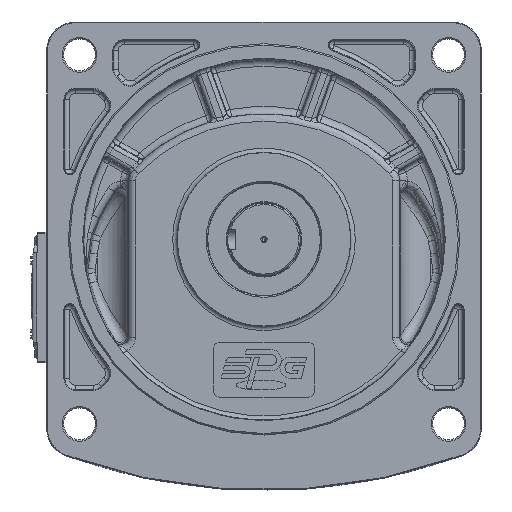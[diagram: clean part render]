
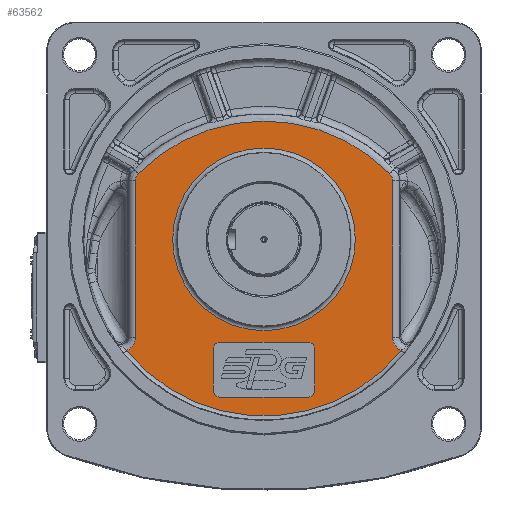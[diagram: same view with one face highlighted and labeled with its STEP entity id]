
A CAD part, front view. The second image highlights one B-rep face of the part: STEP entity #63562.
In plain terms, the highlighted planar face has unit normal (0, -1, 0).
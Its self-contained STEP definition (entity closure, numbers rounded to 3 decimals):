
#704=FACE_BOUND('',#15007,.T.);
#705=FACE_BOUND('',#15008,.T.);
#1747=PLANE('',#69085);
#4005=LINE('',#99045,#7163);
#4009=LINE('',#99057,#7167);
#4013=LINE('',#99069,#7171);
#4110=LINE('',#99345,#7268);
#4203=LINE('',#102868,#7361);
#4204=LINE('',#102870,#7362);
#7163=VECTOR('',#79846,10.);
#7167=VECTOR('',#79858,10.);
#7171=VECTOR('',#79870,10.);
#7268=VECTOR('',#80117,10.);
#7361=VECTOR('',#80888,10.);
#7362=VECTOR('',#80889,10.);
#10999=FACE_OUTER_BOUND('',#15006,.T.);
#15006=EDGE_LOOP('',(#46272,#46273,#46274,#46275,#46276,#46277,#46278,#46279));
#15007=EDGE_LOOP('',(#46280,#46281,#46282,#46283,#46284,#46285,#46286,#46287));
#15008=EDGE_LOOP('',(#46288));
#18998=CIRCLE('',#68663,5.);
#19000=CIRCLE('',#68667,5.);
#19002=CIRCLE('',#68671,5.);
#19004=CIRCLE('',#68675,5.);
#19146=CIRCLE('',#68951,121.601);
#19232=CIRCLE('',#69084,63.);
#19233=CIRCLE('',#69086,121.858);
#21675=B_SPLINE_CURVE_WITH_KNOTS('',3,(#100813,#100814,#100815,#100816,
#100817),.UNSPECIFIED.,.F.,.F.,(4,1,4),(0.,0.309,0.541),
 .UNSPECIFIED.);
#21763=B_SPLINE_CURVE_WITH_KNOTS('',3,(#102698,#102699,#102700,#102701,
#102702),.UNSPECIFIED.,.F.,.F.,(4,1,4),(0.,0.232,0.541),
 .UNSPECIFIED.);
#21776=B_SPLINE_CURVE_WITH_KNOTS('',3,(#102861,#102862,#102863,#102864,
#102865,#102866,#102867),.UNSPECIFIED.,.F.,.F.,(4,1,1,1,4),(0.,
0.361,0.722,1.084,1.153),
 .UNSPECIFIED.);
#21777=B_SPLINE_CURVE_WITH_KNOTS('',3,(#102871,#102872,#102873,#102874,
#102875,#102876),.UNSPECIFIED.,.F.,.F.,(4,1,1,4),(1.376,1.806,
2.167,2.528),.UNSPECIFIED.);
#25985=VERTEX_POINT('',#99035);
#25986=VERTEX_POINT('',#99037);
#25988=VERTEX_POINT('',#99043);
#25990=VERTEX_POINT('',#99049);
#25992=VERTEX_POINT('',#99055);
#25994=VERTEX_POINT('',#99061);
#25996=VERTEX_POINT('',#99067);
#25998=VERTEX_POINT('',#99073);
#26199=VERTEX_POINT('',#100810);
#26200=VERTEX_POINT('',#100812);
#26213=VERTEX_POINT('',#100877);
#26313=VERTEX_POINT('',#102696);
#26329=VERTEX_POINT('',#102853);
#26330=VERTEX_POINT('',#102857);
#26331=VERTEX_POINT('',#102858);
#26332=VERTEX_POINT('',#102860);
#26333=VERTEX_POINT('',#102869);
#32789=EDGE_CURVE('',#25985,#25986,#18998,.T.);
#32793=EDGE_CURVE('',#25985,#25988,#4005,.T.);
#32796=EDGE_CURVE('',#25990,#25988,#19000,.T.);
#32799=EDGE_CURVE('',#25990,#25992,#4009,.T.);
#32802=EDGE_CURVE('',#25994,#25992,#19002,.T.);
#32805=EDGE_CURVE('',#25994,#25996,#4013,.T.);
#32808=EDGE_CURVE('',#25998,#25996,#19004,.T.);
#32944=EDGE_CURVE('',#25998,#25986,#4110,.T.);
#33161=EDGE_CURVE('',#26199,#26200,#21675,.T.);
#33176=EDGE_CURVE('',#26213,#26199,#19146,.T.);
#33352=EDGE_CURVE('',#26313,#26213,#21763,.T.);
#33385=EDGE_CURVE('',#26329,#26329,#19232,.T.);
#33386=EDGE_CURVE('',#26330,#26331,#19233,.T.);
#33387=EDGE_CURVE('',#26332,#26330,#21776,.T.);
#33388=EDGE_CURVE('',#26200,#26332,#4203,.T.);
#33389=EDGE_CURVE('',#26333,#26313,#4204,.T.);
#33390=EDGE_CURVE('',#26331,#26333,#21777,.T.);
#46272=ORIENTED_EDGE('',*,*,#33386,.F.);
#46273=ORIENTED_EDGE('',*,*,#33387,.F.);
#46274=ORIENTED_EDGE('',*,*,#33388,.F.);
#46275=ORIENTED_EDGE('',*,*,#33161,.F.);
#46276=ORIENTED_EDGE('',*,*,#33176,.F.);
#46277=ORIENTED_EDGE('',*,*,#33352,.F.);
#46278=ORIENTED_EDGE('',*,*,#33389,.F.);
#46279=ORIENTED_EDGE('',*,*,#33390,.F.);
#46280=ORIENTED_EDGE('',*,*,#32805,.T.);
#46281=ORIENTED_EDGE('',*,*,#32808,.F.);
#46282=ORIENTED_EDGE('',*,*,#32944,.T.);
#46283=ORIENTED_EDGE('',*,*,#32789,.F.);
#46284=ORIENTED_EDGE('',*,*,#32793,.T.);
#46285=ORIENTED_EDGE('',*,*,#32796,.F.);
#46286=ORIENTED_EDGE('',*,*,#32799,.T.);
#46287=ORIENTED_EDGE('',*,*,#32802,.F.);
#46288=ORIENTED_EDGE('',*,*,#33385,.F.);
#63562=ADVANCED_FACE('',(#10999,#704,#705),#1747,.F.);
#68663=AXIS2_PLACEMENT_3D('',#99038,#79839,#79840);
#68667=AXIS2_PLACEMENT_3D('',#99051,#79852,#79853);
#68671=AXIS2_PLACEMENT_3D('',#99063,#79864,#79865);
#68675=AXIS2_PLACEMENT_3D('',#99075,#79876,#79877);
#68951=AXIS2_PLACEMENT_3D('',#100879,#80587,#80588);
#69084=AXIS2_PLACEMENT_3D('',#102855,#80882,#80883);
#69085=AXIS2_PLACEMENT_3D('',#102856,#80884,#80885);
#69086=AXIS2_PLACEMENT_3D('',#102859,#80886,#80887);
#79839=DIRECTION('center_axis',(0.,-1.,0.));
#79840=DIRECTION('ref_axis',(0.707,0.,0.707));
#79846=DIRECTION('',(0.,0.,-1.));
#79852=DIRECTION('center_axis',(0.,-1.,0.));
#79853=DIRECTION('ref_axis',(0.707,0.,-0.707));
#79858=DIRECTION('',(-1.,0.,0.));
#79864=DIRECTION('center_axis',(0.,-1.,0.));
#79865=DIRECTION('ref_axis',(-0.707,0.,-0.707));
#79870=DIRECTION('',(0.,0.,1.));
#79876=DIRECTION('center_axis',(0.,-1.,0.));
#79877=DIRECTION('ref_axis',(-0.707,0.,0.707));
#80117=DIRECTION('',(1.,0.,0.));
#80587=DIRECTION('center_axis',(0.,1.,0.));
#80588=DIRECTION('ref_axis',(0.,0.,
1.));
#80882=DIRECTION('center_axis',(0.,-1.,0.));
#80883=DIRECTION('ref_axis',(-1.,0.,0.));
#80884=DIRECTION('center_axis',(0.,1.,0.));
#80885=DIRECTION('ref_axis',(-1.,0.,0.));
#80886=DIRECTION('center_axis',(0.,1.,0.));
#80887=DIRECTION('ref_axis',(0.,0.,
-1.));
#80888=DIRECTION('',(0.,0.,-1.));
#80889=DIRECTION('',(0.,0.,1.));
#99035=CARTESIAN_POINT('',(-22.569,2.,62.589));
#99037=CARTESIAN_POINT('',(-27.569,2.,67.589));
#99038=CARTESIAN_POINT('Origin',(-27.569,2.,62.589));
#99043=CARTESIAN_POINT('',(-22.569,2.,34.589));
#99045=CARTESIAN_POINT('',(-22.569,2.,64.089));
#99049=CARTESIAN_POINT('',(-27.569,2.,29.589));
#99051=CARTESIAN_POINT('Origin',(-27.569,2.,34.589));
#99055=CARTESIAN_POINT('',(-87.569,2.,29.589));
#99057=CARTESIAN_POINT('',(-75.069,2.,29.589));
#99061=CARTESIAN_POINT('',(-92.569,2.,34.589));
#99063=CARTESIAN_POINT('Origin',(-87.569,2.,34.589));
#99067=CARTESIAN_POINT('',(-92.569,2.,62.589));
#99069=CARTESIAN_POINT('',(-92.569,2.,83.089));
#99073=CARTESIAN_POINT('',(-87.569,2.,67.589));
#99075=CARTESIAN_POINT('Origin',(-87.569,2.,62.589));
#99345=CARTESIAN_POINT('',(-40.069,2.,67.589));
#100810=CARTESIAN_POINT('',(29.097,2.,183.887));
#100812=CARTESIAN_POINT('',(31.107,2.,178.978));
#100813=CARTESIAN_POINT('Ctrl Pts',(29.097,2.,183.887));
#100814=CARTESIAN_POINT('Ctrl Pts',(29.819,2.,183.153));
#100815=CARTESIAN_POINT('Ctrl Pts',(30.804,2.,181.571));
#100816=CARTESIAN_POINT('Ctrl Pts',(31.107,2.,179.75));
#100817=CARTESIAN_POINT('Ctrl Pts',(31.107,2.,178.978));
#100877=CARTESIAN_POINT('',(-144.235,2.,183.887));
#100879=CARTESIAN_POINT('Origin',(-57.569,2.,98.589));
#102696=CARTESIAN_POINT('',(-146.246,2.,178.978));
#102698=CARTESIAN_POINT('Ctrl Pts',(-146.246,2.,
178.978));
#102699=CARTESIAN_POINT('Ctrl Pts',(-146.246,2.,
179.75));
#102700=CARTESIAN_POINT('Ctrl Pts',(-145.943,2.,
181.571));
#102701=CARTESIAN_POINT('Ctrl Pts',(-144.958,2.,
183.153));
#102702=CARTESIAN_POINT('Ctrl Pts',(-144.235,2.,
183.887));
#102853=CARTESIAN_POINT('',(5.431,2.,138.589));
#102855=CARTESIAN_POINT('Origin',(-57.569,2.,138.589));
#102856=CARTESIAN_POINT('Origin',(-57.569,2.,98.589));
#102857=CARTESIAN_POINT('',(37.085,2.,61.843));
#102858=CARTESIAN_POINT('',(-152.224,2.,61.843));
#102859=CARTESIAN_POINT('Origin',(-57.569,2.,138.589));
#102860=CARTESIAN_POINT('',(31.107,2.,71.027));
#102861=CARTESIAN_POINT('Ctrl Pts',(31.107,2.,71.027));
#102862=CARTESIAN_POINT('Ctrl Pts',(31.107,2.,69.823));
#102863=CARTESIAN_POINT('Ctrl Pts',(31.547,2.,67.387));
#102864=CARTESIAN_POINT('Ctrl Pts',(33.451,2.,64.233));
#102865=CARTESIAN_POINT('Ctrl Pts',(35.57,2.,62.556));
#102866=CARTESIAN_POINT('Ctrl Pts',(36.873,2.,61.934));
#102867=CARTESIAN_POINT('Ctrl Pts',(37.085,2.,61.842));
#102868=CARTESIAN_POINT('',(31.107,2.,44.589));
#102869=CARTESIAN_POINT('',(-146.246,2.,71.027));
#102870=CARTESIAN_POINT('',(-146.246,2.,44.589));
#102871=CARTESIAN_POINT('Ctrl Pts',(-152.227,2.,
61.849));
#102872=CARTESIAN_POINT('Ctrl Pts',(-150.907,2.,62.433));
#102873=CARTESIAN_POINT('Ctrl Pts',(-148.703,2.,
64.025));
#102874=CARTESIAN_POINT('Ctrl Pts',(-146.69,2.,
67.396));
#102875=CARTESIAN_POINT('Ctrl Pts',(-146.246,2.,
69.823));
#102876=CARTESIAN_POINT('Ctrl Pts',(-146.246,2.,
71.027));
